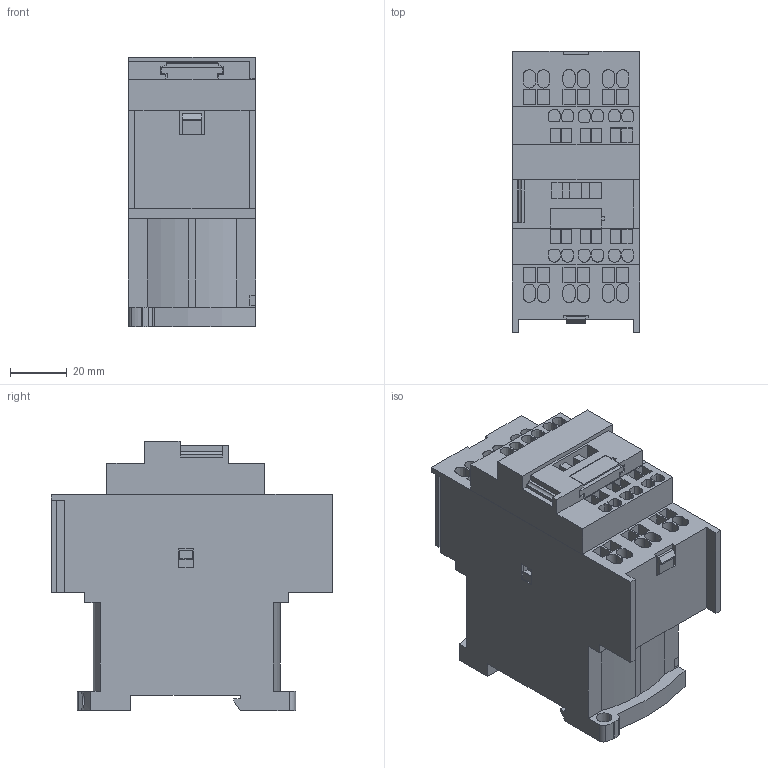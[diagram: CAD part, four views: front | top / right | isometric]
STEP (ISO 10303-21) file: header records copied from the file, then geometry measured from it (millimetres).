
FILE_DESCRIPTION((''),'2;1');
FILE_NAME('SB105136_3D_COLOUR','2013-07-17T',('SESA231906'),('Schneider-Electric'),'PRO/ENGINEER BY PARAMETRIC TECHNOLOGY CORPORATION, 2011410','PRO/ENGINEER BY PARAMETRIC TECHNOLOGY CORPORATION, 2011410','');
FILE_SCHEMA(('CONFIG_CONTROL_DESIGN'));
Length unit declared in the file: millimetre
Products named in the file (1): SB105136_3D_COLOUR
Bounding box: 44.8 x 99.23 x 95.06 mm (x, y, z)
Volume: 287740.8 mm3; surface area: 38315.6 mm2
Topology: 1 solids, 1 shells, 446 faces, 1170 edges, 778 vertices
Faces by surface type: plane 364, cylinder 58, extrusion 24
Entity records: 14655 total; most frequent: CARTESIAN_POINT 3563, ORIENTED_EDGE 2340, DIRECTION 2100, EDGE_CURVE 1170, VECTOR 1028, LINE 1004, VERTEX_POINT 778, AXIS2_PLACEMENT_3D 536
